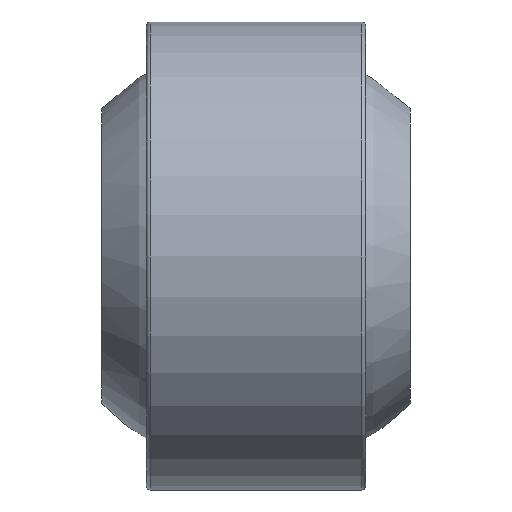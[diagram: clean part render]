
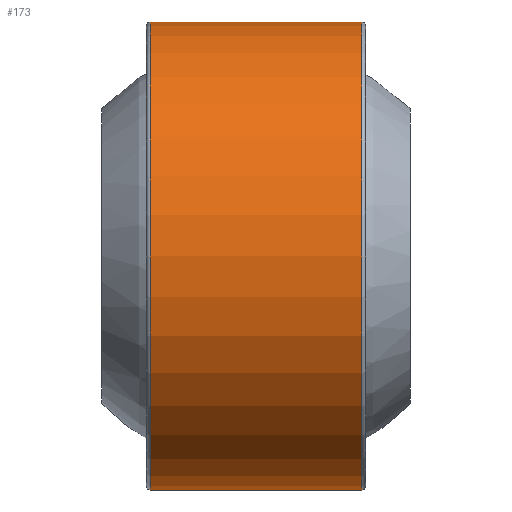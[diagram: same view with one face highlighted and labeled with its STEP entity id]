
A CAD part, front view. The second image highlights one B-rep face of the part: STEP entity #173.
In plain terms, the highlighted cylindrical face has radius 23.5 mm (diameter 47 mm), a full revolution.
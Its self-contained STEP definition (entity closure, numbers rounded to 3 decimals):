
#173 = ADVANCED_FACE( '', ( #195, #196, #197 ), #198, .T. );
#195 = FACE_OUTER_BOUND( '', #231, .T. );
#196 = FACE_BOUND( '', #232, .T. );
#197 = FACE_OUTER_BOUND( '', #233, .T. );
#198 = CYLINDRICAL_SURFACE( '', #234, 23.5 );
#231 = EDGE_LOOP( '', ( #274 ) );
#232 = EDGE_LOOP( '', ( #275 ) );
#233 = EDGE_LOOP( '', ( #276 ) );
#234 = AXIS2_PLACEMENT_3D( '', #277, #278, #279 );
#274 = ORIENTED_EDGE( '', *, *, #316, .T. );
#275 = ORIENTED_EDGE( '', *, *, #317, .T. );
#276 = ORIENTED_EDGE( '', *, *, #314, .F. );
#277 = CARTESIAN_POINT( '', ( 11., 0., 0. ) );
#278 = DIRECTION( '', ( -1., 0., 0. ) );
#279 = DIRECTION( '', ( 0., 0., -1. ) );
#314 = EDGE_CURVE( '', #330, #330, #331, .T. );
#316 = EDGE_CURVE( '', #334, #334, #335, .T. );
#317 = EDGE_CURVE( '', #336, #336, #337, .T. );
#330 = VERTEX_POINT( '', #354 );
#331 = CIRCLE( '', #355, 23.5 );
#334 = VERTEX_POINT( '', #358 );
#335 = CIRCLE( '', #359, 23.5 );
#336 = VERTEX_POINT( '', #360 );
#337 = B_SPLINE_CURVE_WITH_KNOTS( '', 3, ( #361, #362, #363, #364, #365, #366, #367, #368, #369, #370, #371, #372, #373, #374, #375, #376, #377, #378, #379, #380, #381, #382, #383, #384, #385, #386, #387, #388, #389, #390, #391, #392, #393, #394, #395, #396, #397, #398 ), .UNSPECIFIED., .T., .F., ( 2, 2, 2, 2, 2, 2, 2, 2, 2, 2, 2, 2, 2, 2, 2, 2, 2, 2, 2, 2, 2 ), ( 0., 0., 0., 0.001, 0.001, 0.002, 0.002, 0.003, 0.003, 0.004, 0.004, 0.004, 0.005, 0.005, 0.006, 0.006, 0.007, 0.007, 0.007, 0.008, 0.008 ), .UNSPECIFIED. );
#354 = CARTESIAN_POINT( '', ( 10.6, 0., -23.5 ) );
#355 = AXIS2_PLACEMENT_3D( '', #419, #420, #421 );
#358 = CARTESIAN_POINT( '', ( -10.6, 0., -23.5 ) );
#359 = AXIS2_PLACEMENT_3D( '', #425, #426, #427 );
#360 = CARTESIAN_POINT( '', ( 1.25, 23.5, 0. ) );
#361 = CARTESIAN_POINT( '', ( 1.25, 23.5, -0.165 ) );
#362 = CARTESIAN_POINT( '', ( 1.25, 23.5, 0.165 ) );
#363 = CARTESIAN_POINT( '', ( 1.217, 23.498, 0.327 ) );
#364 = CARTESIAN_POINT( '', ( 1.092, 23.492, 0.63 ) );
#365 = CARTESIAN_POINT( '', ( 0.999, 23.488, 0.769 ) );
#366 = CARTESIAN_POINT( '', ( 0.768, 23.479, 0.999 ) );
#367 = CARTESIAN_POINT( '', ( 0.629, 23.475, 1.092 ) );
#368 = CARTESIAN_POINT( '', ( 0.328, 23.469, 1.217 ) );
#369 = CARTESIAN_POINT( '', ( 0.164, 23.467, 1.25 ) );
#370 = CARTESIAN_POINT( '', ( -0.162, 23.467, 1.25 ) );
#371 = CARTESIAN_POINT( '', ( -0.326, 23.469, 1.218 ) );
#372 = CARTESIAN_POINT( '', ( -0.629, 23.475, 1.093 ) );
#373 = CARTESIAN_POINT( '', ( -0.767, 23.479, 1.001 ) );
#374 = CARTESIAN_POINT( '', ( -1., 23.488, 0.768 ) );
#375 = CARTESIAN_POINT( '', ( -1.092, 23.492, 0.63 ) );
#376 = CARTESIAN_POINT( '', ( -1.186, 23.497, 0.403 ) );
#377 = CARTESIAN_POINT( '', ( -1.21, 23.498, 0.325 ) );
#378 = CARTESIAN_POINT( '', ( -1.242, 23.5, 0.165 ) );
#379 = CARTESIAN_POINT( '', ( -1.25, 23.5, 0.082 ) );
#380 = CARTESIAN_POINT( '', ( -1.25, 23.5, -0.163 ) );
#381 = CARTESIAN_POINT( '', ( -1.217, 23.498, -0.327 ) );
#382 = CARTESIAN_POINT( '', ( -1.093, 23.492, -0.628 ) );
#383 = CARTESIAN_POINT( '', ( -1., 23.488, -0.768 ) );
#384 = CARTESIAN_POINT( '', ( -0.77, 23.479, -0.998 ) );
#385 = CARTESIAN_POINT( '', ( -0.631, 23.475, -1.091 ) );
#386 = CARTESIAN_POINT( '', ( -0.329, 23.469, -1.217 ) );
#387 = CARTESIAN_POINT( '', ( -0.166, 23.467, -1.25 ) );
#388 = CARTESIAN_POINT( '', ( 0.164, 23.467, -1.25 ) );
#389 = CARTESIAN_POINT( '', ( 0.326, 23.469, -1.218 ) );
#390 = CARTESIAN_POINT( '', ( 0.553, 23.473, -1.124 ) );
#391 = CARTESIAN_POINT( '', ( 0.625, 23.475, -1.085 ) );
#392 = CARTESIAN_POINT( '', ( 0.761, 23.479, -0.995 ) );
#393 = CARTESIAN_POINT( '', ( 0.825, 23.481, -0.942 ) );
#394 = CARTESIAN_POINT( '', ( 0.999, 23.488, -0.769 ) );
#395 = CARTESIAN_POINT( '', ( 1.092, 23.492, -0.63 ) );
#396 = CARTESIAN_POINT( '', ( 1.217, 23.498, -0.329 ) );
#397 = CARTESIAN_POINT( '', ( 1.25, 23.5, -0.165 ) );
#398 = CARTESIAN_POINT( '', ( 1.25, 23.5, 0.165 ) );
#419 = CARTESIAN_POINT( '', ( 10.6, 0., 0. ) );
#420 = DIRECTION( '', ( 1., 0., 0. ) );
#421 = DIRECTION( '', ( 0., 0., -1. ) );
#425 = CARTESIAN_POINT( '', ( -10.6, 0., 0. ) );
#426 = DIRECTION( '', ( 1., 0., 0. ) );
#427 = DIRECTION( '', ( 0., 0., -1. ) );
